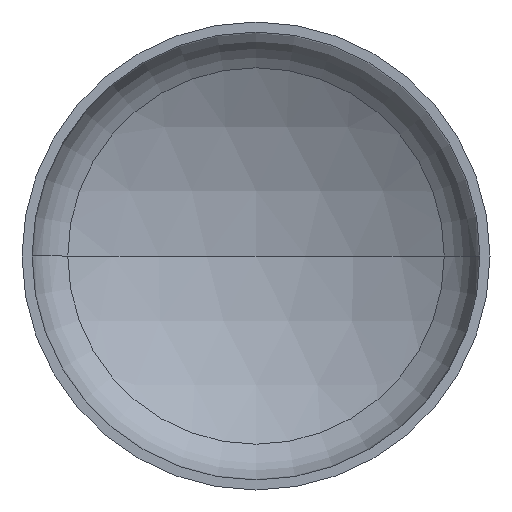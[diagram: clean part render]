
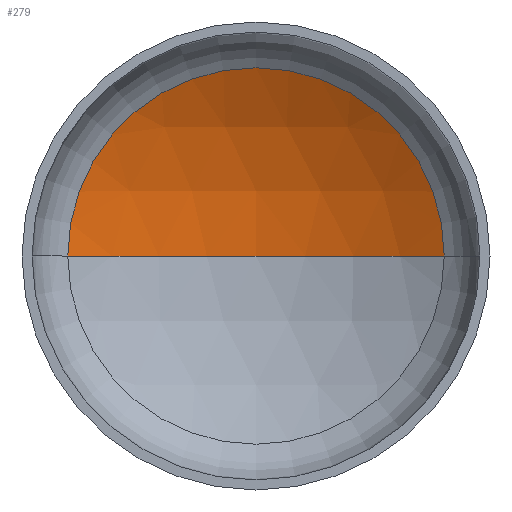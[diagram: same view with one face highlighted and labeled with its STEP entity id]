
A CAD part, front view. The second image highlights one B-rep face of the part: STEP entity #279.
In plain terms, the highlighted spherical face has radius 1120 mm.
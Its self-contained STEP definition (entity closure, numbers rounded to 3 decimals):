
#11 = AXIS2_PLACEMENT_3D ( 'NONE', #282, #398, #89 ) ;
#14 = AXIS2_PLACEMENT_3D ( 'NONE', #211, #208, #203 ) ;
#16 = AXIS2_PLACEMENT_3D ( 'NONE', #233, #230, #200 ) ;
#18 = AXIS2_PLACEMENT_3D ( 'NONE', #294, #226, #223 ) ;
#21 = FACE_OUTER_BOUND ( 'NONE', #170, .T. ) ;
#23 = VERTEX_POINT ( 'NONE', #183 ) ;
#33 = CARTESIAN_POINT ( 'NONE',  ( 0., 427.696, 0. ) ) ;
#52 = ORIENTED_EDGE ( 'NONE', *, *, #58, .T. ) ;
#58 = EDGE_CURVE ( 'NONE', #79, #23, #78, .T. ) ;
#60 = EDGE_CURVE ( 'NONE', #228, #79, #378, .T. ) ;
#61 = EDGE_CURVE ( 'NONE', #228, #23, #252, .T. ) ;
#78 = CIRCLE ( 'NONE', #18, 563.094 ) ;
#79 = VERTEX_POINT ( 'NONE', #150 ) ;
#89 = DIRECTION ( 'NONE',  ( -1., 0., 0. ) ) ;
#125 = ORIENTED_EDGE ( 'NONE', *, *, #60, .T. ) ;
#147 = ORIENTED_EDGE ( 'NONE', *, *, #61, .F. ) ;
#150 = CARTESIAN_POINT ( 'NONE',  ( 563.094, 275.851, 0. ) ) ;
#170 = EDGE_LOOP ( 'NONE', ( #147, #125, #52 ) ) ;
#183 = CARTESIAN_POINT ( 'NONE',  ( -563.094, 275.851, 0. ) ) ;
#200 = DIRECTION ( 'NONE',  ( -1., 0., 0. ) ) ;
#203 = DIRECTION ( 'NONE',  ( 1., 0., 0. ) ) ;
#208 = DIRECTION ( 'NONE',  ( 0., 0., 1. ) ) ;
#211 = CARTESIAN_POINT ( 'NONE',  ( 0., -692.304, 0. ) ) ;
#223 = DIRECTION ( 'NONE',  ( 1., 0., 0. ) ) ;
#226 = DIRECTION ( 'NONE',  ( 0., -1., 0. ) ) ;
#228 = VERTEX_POINT ( 'NONE', #33 ) ;
#230 = DIRECTION ( 'NONE',  ( 0., 0., -1. ) ) ;
#233 = CARTESIAN_POINT ( 'NONE',  ( 0., -692.304, 0. ) ) ;
#252 = CIRCLE ( 'NONE', #14, 1120. ) ;
#279 = ADVANCED_FACE ( 'NONE', ( #21 ), #293, .F. ) ;
#282 = CARTESIAN_POINT ( 'NONE',  ( 0., -692.304, 0. ) ) ;
#293 = SPHERICAL_SURFACE ( 'NONE', #11, 1120. ) ;
#294 = CARTESIAN_POINT ( 'NONE',  ( 0., 275.851, 0. ) ) ;
#378 = CIRCLE ( 'NONE', #16, 1120. ) ;
#398 = DIRECTION ( 'NONE',  ( 0., 0., -1. ) ) ;
